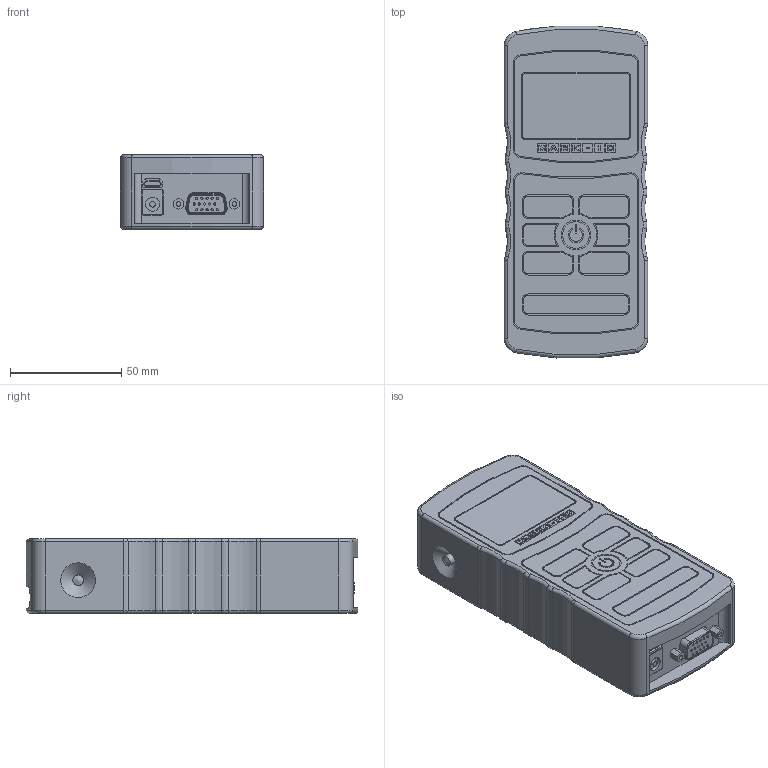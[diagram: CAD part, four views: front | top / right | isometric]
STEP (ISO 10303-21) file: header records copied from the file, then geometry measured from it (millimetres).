
FILE_DESCRIPTION((''),'2;1');
FILE_NAME('F:\CAD files\Itr\3D MARKETING MODELS\INDICATORS\M5I\M5I.stp','2017-04-05T11:37:36',('mlampen'),(''),'Autodesk Inventor 2010','Autodesk Inventor 2010','');
FILE_SCHEMA(('AUTOMOTIVE_DESIGN { 1 0 10303 214 1 1 1 1 }'));
Length unit declared in the file: inch
Products named in the file (1): Part2
Bounding box: 64.26 x 148.95 x 33.64 mm (x, y, z)
Volume: 291608.1 mm3; surface area: 23698.2 mm2
Topology: 1 solids, 4 shells, 665 faces, 1649 edges, 1071 vertices
Faces by surface type: plane 352, cylinder 222, torus 52, bspline 28, cone 7, sphere 4
Full cylindrical faces by diameter (mm): 1.016 x10, 2.063 x2, 2.068 x2, 2.5 x1, 3.175 x2, 3.505 x4, 4 x2, 4.763 x2, 5.486 x2, 6.299 x1, 6.35 x2, 12.065 x1, 13.335 x1
Entity records: 19525 total; most frequent: CARTESIAN_POINT 3731, DIRECTION 3393, ORIENTED_EDGE 3122, EDGE_CURVE 1561, AXIS2_PLACEMENT_3D 1212, VERTEX_POINT 1032, VECTOR 969, LINE 969
